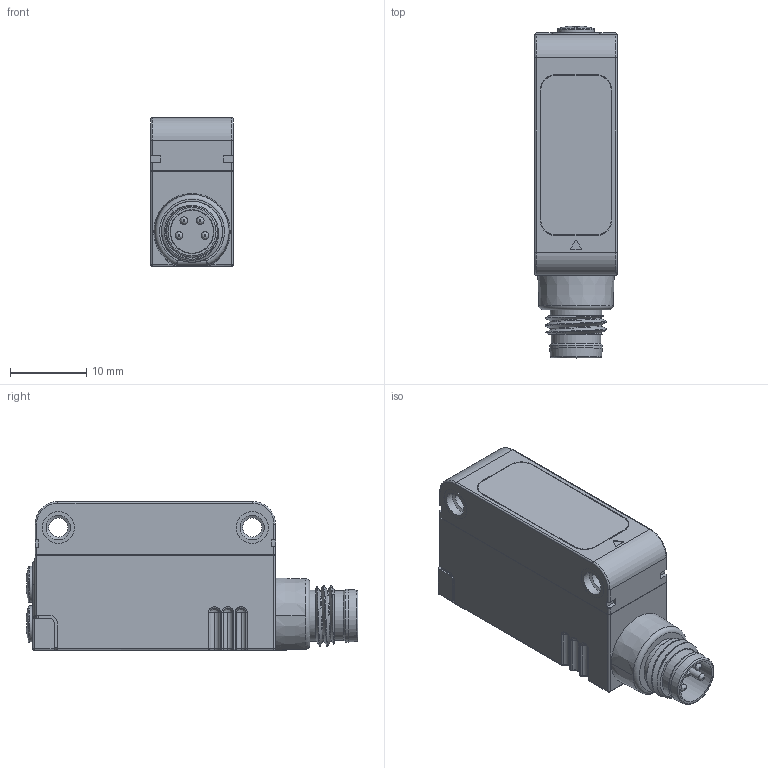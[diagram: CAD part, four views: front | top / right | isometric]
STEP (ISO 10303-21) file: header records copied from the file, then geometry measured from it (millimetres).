
FILE_DESCRIPTION(/* description */ (''),/* implementation_level */ '2;1');
FILE_NAME(/* name */ 'AS008632_00-S3N - DSD.stp',/* time_stamp */ '2024-06-24T18:20:54+02:00',/* author */ (''),/* organization */ (''),/* preprocessor_version */ 'ST-DEVELOPER v16.701',/* originating_system */ 'SIEMENS PLM Software NX 1946',/* authorisation */ '');
FILE_SCHEMA (('AUTOMOTIVE_DESIGN { 1 0 10303 214 3 1 1 1 }'));
Products named in the file (3): AP061285_00-Optic Box Group per DSD; AP061284_00-Bottom Cover per DSD 1150; AS008632_00-S3N - DSD
Assembly tree (2 placements, depth 2):
  AS008632_00-S3N - DSD
    AP061284_00-Bottom Cover per DSD 1150
    AP061285_00-Optic Box Group per DSD
Bounding box: 10.82 x 43.48 x 19.5 mm (x, y, z)
Volume: 7050.2 mm3; surface area: 6058.3 mm2
Topology: 15 solids, 37 shells, 2615 faces, 7080 edges, 4583 vertices
Faces by surface type: plane 1260, cylinder 594, extrusion 311, bspline 203, torus 109, sphere 70, cone 68
Full cylindrical faces by diameter (mm): 0.5 x2, 0.6 x4, 1 x16, 2.4 x2, 2.5 x2, 3.2 x4, 3.454 x1, 3.8 x2, 4.2 x8, 4.244 x1, 4.5 x2, 4.85 x2, 5.65 x2, 5.75 x1, 6.5 x1, 6.75 x6, 6.9 x1
Entity records: 92348 total; most frequent: CARTESIAN_POINT 29417, ORIENTED_EDGE 13624, DIRECTION 11646, EDGE_CURVE 6877, VERTEX_POINT 4521, VECTOR 4288, LINE 3977, AXIS2_PLACEMENT_3D 3679
